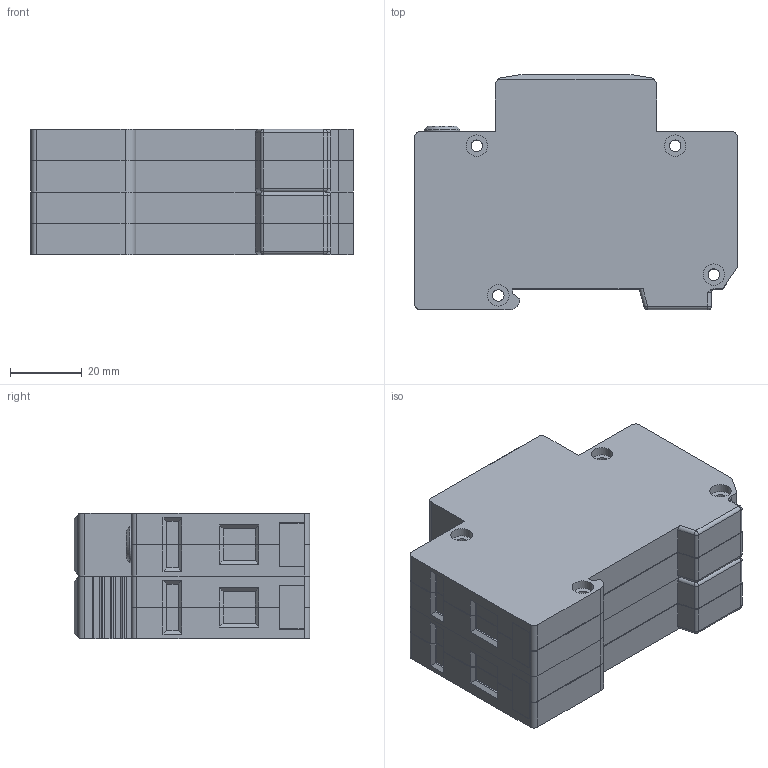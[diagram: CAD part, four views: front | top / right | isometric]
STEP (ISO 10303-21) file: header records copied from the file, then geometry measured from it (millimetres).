
FILE_DESCRIPTION(/* description */ (''),/* implementation_level */ '2;1');
FILE_NAME(/* name */ 'K:\PROJEKTY ROZPRACOVANÉ\MODELY DO KATALOGU\HSA, HLSA 24520, 10007\3D - STEP\H 1+1 M.stp',/* time_stamp */ '2022-04-01T07:52:48+02:00',/* author */ ('miko'),/* organization */ (''),/* preprocessor_version */ 'ST-DEVELOPER v18.1',/* originating_system */ 'Autodesk Inventor 2022',/* authorisation */ '');
FILE_SCHEMA (('AUTOMOTIVE_DESIGN { 1 0 10303 214 3 1 1 }'));
Length unit declared in the file: millimetre
Products named in the file (6): H 1+1 M; HSA M; HSA M_1; HGDT (Z); HGDT (Z)_1; DIN 7985 (H) - M5x6-H
Assembly tree (7 placements, depth 3):
  H 1+1 M
    HSA M
      HSA M_1
      DIN 7985 (H) - M5x6-H  x2
    HGDT (Z)
      HGDT (Z)_1
      DIN 7985 (H) - M5x6-H
Bounding box: 90 x 65.8 x 35 mm (x, y, z)
Volume: 168360.7 mm3; surface area: 38330.6 mm2
Topology: 5 solids, 5 shells, 634 faces, 1736 edges, 1134 vertices
Faces by surface type: plane 447, cylinder 117, cone 52, sphere 11, torus 7
Full cylindrical faces by diameter (mm): 3.2 x8, 4.6 x3, 5 x3, 6 x16, 10 x1
Entity records: 17771 total; most frequent: CARTESIAN_POINT 3163, ORIENTED_EDGE 3056, DIRECTION 2938, EDGE_CURVE 1528, LINE 1212, VECTOR 1212, VERTEX_POINT 996, AXIS2_PLACEMENT_3D 863
